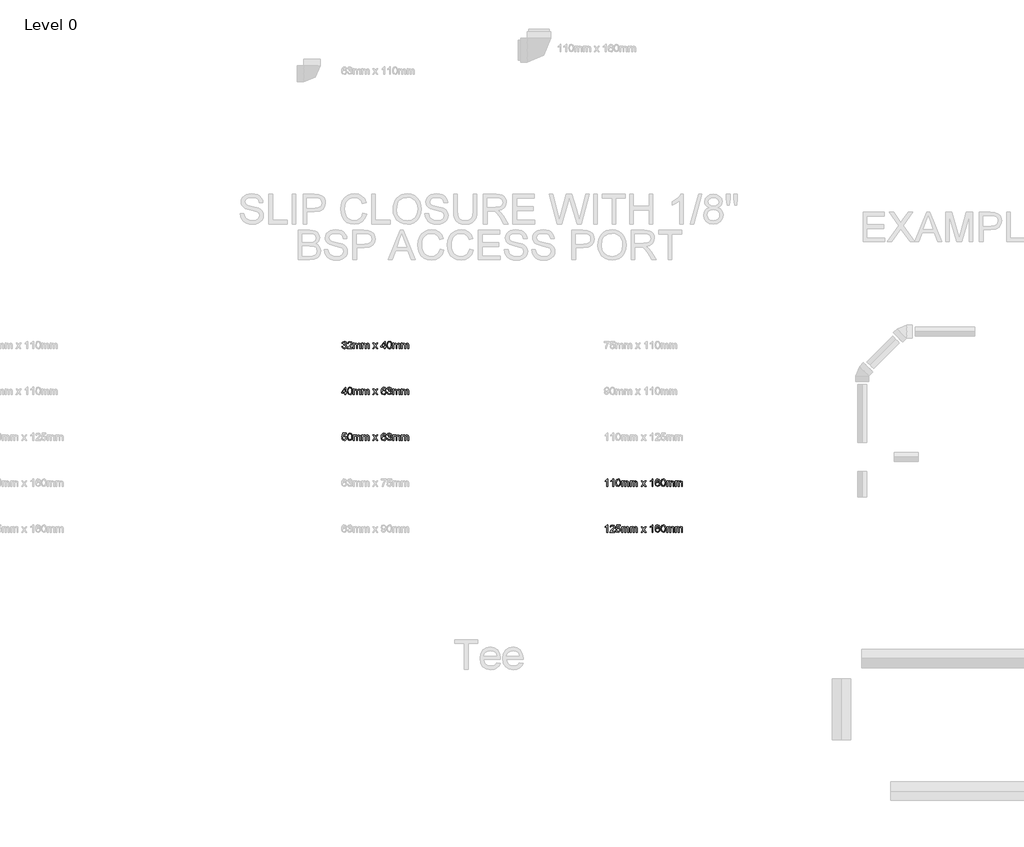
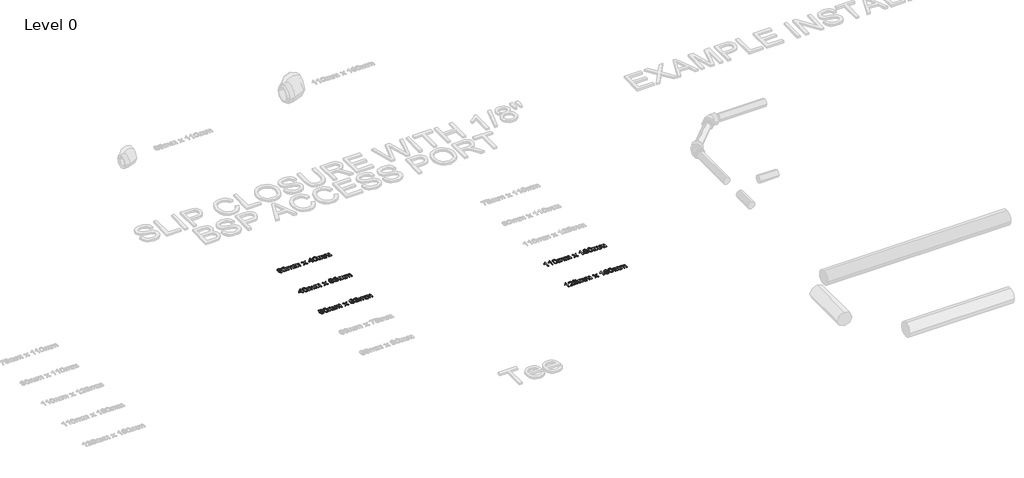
# One storey, part 13 of 21: 5 proxies.
"""IFC4 building model written with IfcOpenShell, lengths in millimetres."""

from ifc_helpers import new_model, si_unit, origin, origin_with_axes, place, context, project, spatial, polyline, outline, extrude, element, save

model = new_model("IFC4")

# Units and contexts
model_context = context("Model", 3, world=origin())
ifc_project = project(units=[si_unit("LENGTHUNIT", "METRE", prefix="MILLI")], contexts=[model_context])

# Site, building, storey
site = spatial("IfcSite", under=ifc_project)
building = spatial("IfcBuilding", under=site)
storey = spatial("IfcBuildingStorey", under=building, Name="Level 0", Elevation=0.0)

# Proxies
placement = place(None, origin())
element("IfcBuildingElementProxy", 1, Name="50mm", ObjectType="50mm", at=placement, inside=storey, context=model_context, shape_type="SweptSolid", body=[
    extrude(outline(polyline([(-3238.2285688, -5164.8694094), (-3231.9500494, -5164.0845945), (-3228.4858273, -5170.6942077), (-3222.0049728, -5172.7175586), (-3214.3775528, -5169.9339182), (-3211.5448614, -5163.0422622), (-3214.3530273, -5156.5491449), (-3221.4899381, -5153.9801023), (-3225.8922593, -5154.6668154), (-3225.1932835, -5148.388296), (-3217.0630914, -5146.6592506), (-3213.8993062, -5141.1164952), (-3216.1924373, -5136.2052706), (-3222.1030747, -5134.2616274), (-3228.0872885, -5136.2236647), (-3231.1652345, -5142.1097766), (-3237.4437539, -5141.3249617), (-3232.3056687, -5131.477987), (-3222.3238039, -5127.983108), (-3214.7515662, -5129.706022), (-3209.4540654, -5134.4149116), (-3207.6207868, -5140.7486132), (-3209.3620949, -5146.5366233), (-3214.5124429, -5150.6936899), (-3207.6698378, -5154.9856465), (-3205.2663421, -5163.1526268), (-3210.0733335, -5174.3852903), (-3222.225702, -5178.996078), (-3233.2376364, -5175.0597407), (-3238.2285688, -5164.8694094)])), origin_with_axes(), (0.0, 0.0, 1.0), 5.0),
    extrude(outline(polyline([(-3167.5952258, -5171.9327437), (-3167.5952258, -5178.2112631), (-3200.5574525, -5178.2112631), (-3199.8830022, -5173.8825183), (-3196.0692922, -5167.2177228), (-3188.2088802, -5159.9397907), (-3177.3686241, -5149.4796793), (-3174.6585601, -5142.367294), (-3177.2153399, -5136.6099408), (-3183.8923981, -5134.2616274), (-3190.8514992, -5136.5547585), (-3193.4941182, -5142.8945916), (-3199.7726376, -5142.1097766), (-3194.9595148, -5131.6006143), (-3183.7575081, -5127.983108), (-3172.5187131, -5132.0052845), (-3168.3800407, -5141.9871493), (-3169.4959494, -5147.9407063), (-3173.2054262, -5154.0965983), (-3182.200141, -5162.6989056), (-3189.4228908, -5168.7383017), (-3192.2555822, -5171.9327437), (-3167.5952258, -5171.9327437)])), origin_with_axes(), (0.0, 0.0, 1.0), 5.0),
    extrude(outline(polyline([(-3159.7470765, -5178.2112631), (-3159.7470765, -5141.3249617), (-3153.4685571, -5141.3249617), (-3153.4685571, -5147.3950146), (-3149.1520751, -5142.4224763), (-3143.0084457, -5140.5401468), (-3136.7176636, -5142.4592645), (-3133.2595729, -5147.836473), (-3128.360611, -5142.3642283), (-3122.1740621, -5140.5401468), (-3113.9641622, -5143.5751732), (-3111.0885513, -5152.9255073), (-3111.0885513, -5178.2112631), (-3117.3670707, -5178.2112631), (-3117.3670707, -5155.6233086), (-3117.9495505, -5150.3809902), (-3120.0587406, -5147.7996848), (-3123.6455901, -5146.8186662), (-3129.8198762, -5149.3325265), (-3132.2785542, -5157.3891422), (-3132.2785542, -5178.2112631), (-3138.5570736, -5178.2112631), (-3138.5570736, -5154.9243328), (-3140.0102075, -5148.8420171), (-3144.7742793, -5146.8186662), (-3149.4218552, -5148.1675668), (-3152.512064, -5152.1161669), (-3153.4685571, -5159.6086969), (-3153.4685571, -5178.2112631), (-3159.7470765, -5178.2112631)])), origin_with_axes(), (0.0, 0.0, 1.0), 5.0),
    extrude(outline(polyline([(-3101.6707722, -5178.2112631), (-3101.6707722, -5141.3249617), (-3095.3922528, -5141.3249617), (-3095.3922528, -5147.3950146), (-3091.0757708, -5142.4224763), (-3084.9321414, -5140.5401468), (-3078.6413593, -5142.4592645), (-3075.1832686, -5147.836473), (-3070.2843067, -5142.3642283), (-3064.0977578, -5140.5401468), (-3055.8878579, -5143.5751732), (-3053.012247, -5152.9255073), (-3053.012247, -5178.2112631), (-3059.2907664, -5178.2112631), (-3059.2907664, -5155.6233086), (-3059.8732462, -5150.3809902), (-3061.9824363, -5147.7996848), (-3065.5692858, -5146.8186662), (-3071.7435719, -5149.3325265), (-3074.2022499, -5157.3891422), (-3074.2022499, -5178.2112631), (-3080.4807693, -5178.2112631), (-3080.4807693, -5154.9243328), (-3081.9339032, -5148.8420171), (-3086.697975, -5146.8186662), (-3091.3455509, -5148.1675668), (-3094.4357597, -5152.1161669), (-3095.3922528, -5159.6086969), (-3095.3922528, -5178.2112631), (-3101.6707722, -5178.2112631)])), origin_with_axes(), (0.0, 0.0, 1.0), 5.0),
    extrude(outline(polyline([(-3027.8981695, -5178.2112631), (-3014.4827394, -5159.6700105), (-3027.1133545, -5141.3249617), (-3019.5595109, -5141.3249617), (-3013.4649325, -5150.1541296), (-3010.6199784, -5154.3234589), (-3008.155169, -5150.914419), (-3001.2144621, -5141.3249617), (-2993.6606184, -5141.3249617), (-3006.9288957, -5159.6700105), (-2994.1511278, -5178.2112631), (-3001.7049714, -5178.2112631), (-3009.3937051, -5167.0644386), (-3010.8039194, -5165.0288249), (-3020.3443258, -5178.2112631), (-3027.8981695, -5178.2112631)])), origin_with_axes(), (0.0, 0.0, 1.0), 5.0),
    extrude(outline(polyline([(-2950.2014921, -5178.2112631), (-2950.2014921, -5166.4390392), (-2972.9611248, -5166.4390392), (-2972.9611248, -5160.1605199), (-2948.6318622, -5128.7679229), (-2943.9229727, -5128.7679229), (-2943.9229727, -5160.1605199), (-2937.6444533, -5160.1605199), (-2937.6444533, -5166.4390392), (-2943.9229727, -5166.4390392), (-2943.9229727, -5178.2112631), (-2950.2014921, -5178.2112631)]), holes=[polyline([(-2950.2014921, -5160.1605199), (-2950.2014921, -5140.760876), (-2965.2356029, -5160.1605199), (-2950.2014921, -5160.1605199)])]), origin_with_axes(), (0.0, 0.0, 1.0), 5.0),
    extrude(outline(polyline([(-2932.1507488, -5153.5018557), (-2930.3052075, -5139.0502247), (-2924.8237658, -5130.7176975), (-2915.6696355, -5127.983108), (-2908.336521, -5129.6017888), (-2903.2720122, -5134.2677588), (-2900.3289563, -5141.6989751), (-2899.1885221, -5153.5018557), (-2901.0156693, -5167.8921731), (-2906.4787169, -5176.2430944), (-2915.6696355, -5178.996078), (-2927.1475537, -5174.2136121), (-2930.8999501, -5165.7186037), (-2932.1507488, -5153.5018557)]), holes=[polyline([(-2925.8722295, -5153.489593), (-2922.9291735, -5169.0816582), (-2915.6696355, -5172.7175586), (-2908.4100974, -5169.0693955), (-2905.4670415, -5153.489593), (-2908.3119956, -5138.0753374), (-2915.7432119, -5134.2616274), (-2922.8310716, -5137.6216163), (-2925.8722295, -5153.489593)])]), origin_with_axes(), (0.0, 0.0, 1.0), 5.0),
    extrude(outline(polyline([(-2892.1251878, -5178.2112631), (-2892.1251878, -5141.3249617), (-2885.8466684, -5141.3249617), (-2885.8466684, -5147.3950146), (-2881.5301863, -5142.4224763), (-2875.386557, -5140.5401468), (-2869.0957749, -5142.4592645), (-2865.6376841, -5147.836473), (-2860.7387222, -5142.3642283), (-2854.5521733, -5140.5401468), (-2846.3422735, -5143.5751732), (-2843.4666625, -5152.9255073), (-2843.4666625, -5178.2112631), (-2849.7451819, -5178.2112631), (-2849.7451819, -5155.6233086), (-2850.3276618, -5150.3809902), (-2852.4368519, -5147.7996848), (-2856.0237013, -5146.8186662), (-2862.1979875, -5149.3325265), (-2864.6566655, -5157.3891422), (-2864.6566655, -5178.2112631), (-2870.9351848, -5178.2112631), (-2870.9351848, -5154.9243328), (-2872.3883187, -5148.8420171), (-2877.1523906, -5146.8186662), (-2881.7999664, -5148.1675668), (-2884.8901752, -5152.1161669), (-2885.8466684, -5159.6086969), (-2885.8466684, -5178.2112631), (-2892.1251878, -5178.2112631)])), origin_with_axes(), (0.0, 0.0, 1.0), 5.0),
    extrude(outline(polyline([(-2834.0488835, -5178.2112631), (-2834.0488835, -5141.3249617), (-2827.7703641, -5141.3249617), (-2827.7703641, -5147.3950146), (-2823.453882, -5142.4224763), (-2817.3102527, -5140.5401468), (-2811.0194706, -5142.4592645), (-2807.5613798, -5147.836473), (-2802.6624179, -5142.3642283), (-2796.475869, -5140.5401468), (-2788.2659692, -5143.5751732), (-2785.3903582, -5152.9255073), (-2785.3903582, -5178.2112631), (-2791.6688776, -5178.2112631), (-2791.6688776, -5155.6233086), (-2792.2513574, -5150.3809902), (-2794.3605476, -5147.7996848), (-2797.947397, -5146.8186662), (-2804.1216832, -5149.3325265), (-2806.5803612, -5157.3891422), (-2806.5803612, -5178.2112631), (-2812.8588805, -5178.2112631), (-2812.8588805, -5154.9243328), (-2814.3120144, -5148.8420171), (-2819.0760863, -5146.8186662), (-2823.7236621, -5148.1675668), (-2826.8138709, -5152.1161669), (-2827.7703641, -5159.6086969), (-2827.7703641, -5178.2112631), (-2834.0488835, -5178.2112631)])), origin_with_axes(), (0.0, 0.0, 1.0), 5.0),
])
element("IfcBuildingElementProxy", 2, Name="50mm", ObjectType="50mm", at=placement, inside=storey, context=model_context, shape_type="SweptSolid", body=[
    extrude(outline(polyline([(-3217.8233808, -5489.4612631), (-3217.8233808, -5477.6890392), (-3240.5830136, -5477.6890392), (-3240.5830136, -5471.4105199), (-3216.253751, -5440.0179229), (-3211.5448614, -5440.0179229), (-3211.5448614, -5471.4105199), (-3205.2663421, -5471.4105199), (-3205.2663421, -5477.6890392), (-3211.5448614, -5477.6890392), (-3211.5448614, -5489.4612631), (-3217.8233808, -5489.4612631)]), holes=[polyline([(-3217.8233808, -5471.4105199), (-3217.8233808, -5452.010876), (-3232.8574917, -5471.4105199), (-3217.8233808, -5471.4105199)])]), origin_with_axes(), (0.0, 0.0, 1.0), 5.0),
    extrude(outline(polyline([(-3199.7726376, -5464.7518557), (-3197.9270963, -5450.3002247), (-3192.4456545, -5441.9676975), (-3183.2915242, -5439.233108), (-3175.9584098, -5440.8517888), (-3170.893901, -5445.5177588), (-3167.950845, -5452.9489751), (-3166.8104108, -5464.7518557), (-3168.6375581, -5479.1421731), (-3174.1006057, -5487.4930944), (-3183.2915242, -5490.246078), (-3194.7694425, -5485.4636121), (-3198.5218388, -5476.9686037), (-3199.7726376, -5464.7518557)]), holes=[polyline([(-3193.4941182, -5464.739593), (-3190.5510623, -5480.3316582), (-3183.2915242, -5483.9675586), (-3176.0319862, -5480.3193955), (-3173.0889302, -5464.739593), (-3175.9338843, -5449.3253374), (-3183.3651006, -5445.5116274), (-3190.4529604, -5448.8716163), (-3193.4941182, -5464.739593)])]), origin_with_axes(), (0.0, 0.0, 1.0), 5.0),
    extrude(outline(polyline([(-3159.7470765, -5489.4612631), (-3159.7470765, -5452.5749617), (-3153.4685571, -5452.5749617), (-3153.4685571, -5458.6450146), (-3149.1520751, -5453.6724763), (-3143.0084457, -5451.7901468), (-3136.7176636, -5453.7092645), (-3133.2595729, -5459.086473), (-3128.360611, -5453.6142283), (-3122.1740621, -5451.7901468), (-3113.9641622, -5454.8251732), (-3111.0885513, -5464.1755073), (-3111.0885513, -5489.4612631), (-3117.3670707, -5489.4612631), (-3117.3670707, -5466.8733086), (-3117.9495505, -5461.6309902), (-3120.0587406, -5459.0496848), (-3123.6455901, -5458.0686662), (-3129.8198762, -5460.5825265), (-3132.2785542, -5468.6391422), (-3132.2785542, -5489.4612631), (-3138.5570736, -5489.4612631), (-3138.5570736, -5466.1743328), (-3140.0102075, -5460.0920171), (-3144.7742793, -5458.0686662), (-3149.4218552, -5459.4175668), (-3152.512064, -5463.3661669), (-3153.4685571, -5470.8586969), (-3153.4685571, -5489.4612631), (-3159.7470765, -5489.4612631)])), origin_with_axes(), (0.0, 0.0, 1.0), 5.0),
    extrude(outline(polyline([(-3101.6707722, -5489.4612631), (-3101.6707722, -5452.5749617), (-3095.3922528, -5452.5749617), (-3095.3922528, -5458.6450146), (-3091.0757708, -5453.6724763), (-3084.9321414, -5451.7901468), (-3078.6413593, -5453.7092645), (-3075.1832686, -5459.086473), (-3070.2843067, -5453.6142283), (-3064.0977578, -5451.7901468), (-3055.8878579, -5454.8251732), (-3053.012247, -5464.1755073), (-3053.012247, -5489.4612631), (-3059.2907664, -5489.4612631), (-3059.2907664, -5466.8733086), (-3059.8732462, -5461.6309902), (-3061.9824363, -5459.0496848), (-3065.5692858, -5458.0686662), (-3071.7435719, -5460.5825265), (-3074.2022499, -5468.6391422), (-3074.2022499, -5489.4612631), (-3080.4807693, -5489.4612631), (-3080.4807693, -5466.1743328), (-3081.9339032, -5460.0920171), (-3086.697975, -5458.0686662), (-3091.3455509, -5459.4175668), (-3094.4357597, -5463.3661669), (-3095.3922528, -5470.8586969), (-3095.3922528, -5489.4612631), (-3101.6707722, -5489.4612631)])), origin_with_axes(), (0.0, 0.0, 1.0), 5.0),
    extrude(outline(polyline([(-3027.8981695, -5489.4612631), (-3014.4827394, -5470.9200105), (-3027.1133545, -5452.5749617), (-3019.5595109, -5452.5749617), (-3013.4649325, -5461.4041296), (-3010.6199784, -5465.5734589), (-3008.155169, -5462.164419), (-3001.2144621, -5452.5749617), (-2993.6606184, -5452.5749617), (-3006.9288957, -5470.9200105), (-2994.1511278, -5489.4612631), (-3001.7049714, -5489.4612631), (-3009.3937051, -5478.3144386), (-3010.8039194, -5476.2788249), (-3020.3443258, -5489.4612631), (-3027.8981695, -5489.4612631)])), origin_with_axes(), (0.0, 0.0, 1.0), 5.0),
    extrude(outline(polyline([(-2938.4292682, -5452.5749617), (-2944.7077876, -5453.3597766), (-2947.0867578, -5448.1235896), (-2953.37754, -5445.5116274), (-2959.0429227, -5447.0322063), (-2963.3287479, -5452.7405086), (-2965.1129756, -5463.9302526), (-2959.5763516, -5458.9209261), (-2952.7153524, -5457.2838512), (-2942.0467745, -5461.7597489), (-2937.6444533, -5473.3235062), (-2939.7168552, -5481.9871272), (-2945.4190261, -5488.1184938), (-2953.6473201, -5490.246078), (-2966.4434822, -5484.6052208), (-2970.1544918, -5477.1372163), (-2971.391495, -5466.0149173), (-2970.0180689, -5453.5099951), (-2965.8977905, -5444.9598044), (-2960.2722617, -5440.6647821), (-2952.9851325, -5439.233108), (-2943.0645814, -5442.7770379), (-2938.4292682, -5452.5749617)]), holes=[polyline([(-2965.1129756, -5473.2254044), (-2963.6598417, -5478.6639265), (-2959.7970808, -5482.6125266), (-2954.1378294, -5483.9675586), (-2946.73727, -5481.1593927), (-2943.9229727, -5473.5319727), (-2946.7004818, -5466.2295151), (-2954.3953468, -5463.5623706), (-2961.99211, -5466.2295151), (-2965.1129756, -5473.2254044)])]), origin_with_axes(), (0.0, 0.0, 1.0), 5.0),
    extrude(outline(polyline([(-2932.1507488, -5476.1194094), (-2925.8722295, -5475.3345945), (-2922.4080073, -5481.9442077), (-2915.9271529, -5483.9675586), (-2908.2997328, -5481.1839182), (-2905.4670415, -5474.2922622), (-2908.2752074, -5467.7991449), (-2915.4121181, -5465.2301023), (-2919.8144393, -5465.9168154), (-2919.1154635, -5459.638296), (-2910.9852714, -5457.9092506), (-2907.8214862, -5452.3664952), (-2910.1146173, -5447.4552706), (-2916.0252547, -5445.5116274), (-2922.0094685, -5447.4736647), (-2925.0874145, -5453.3597766), (-2931.3659339, -5452.5749617), (-2926.2278487, -5442.727987), (-2916.2459839, -5439.233108), (-2908.6737462, -5440.956022), (-2903.3762455, -5445.6649116), (-2901.5429668, -5451.9986132), (-2903.284275, -5457.7866233), (-2908.4346229, -5461.9436899), (-2901.5920178, -5466.2356465), (-2899.1885221, -5474.4026268), (-2903.9955135, -5485.6352903), (-2916.1478821, -5490.246078), (-2927.1598164, -5486.3097407), (-2932.1507488, -5476.1194094)])), origin_with_axes(), (0.0, 0.0, 1.0), 5.0),
    extrude(outline(polyline([(-2892.1251878, -5489.4612631), (-2892.1251878, -5452.5749617), (-2885.8466684, -5452.5749617), (-2885.8466684, -5458.6450146), (-2881.5301863, -5453.6724763), (-2875.386557, -5451.7901468), (-2869.0957749, -5453.7092645), (-2865.6376841, -5459.086473), (-2860.7387222, -5453.6142283), (-2854.5521733, -5451.7901468), (-2846.3422735, -5454.8251732), (-2843.4666625, -5464.1755073), (-2843.4666625, -5489.4612631), (-2849.7451819, -5489.4612631), (-2849.7451819, -5466.8733086), (-2850.3276618, -5461.6309902), (-2852.4368519, -5459.0496848), (-2856.0237013, -5458.0686662), (-2862.1979875, -5460.5825265), (-2864.6566655, -5468.6391422), (-2864.6566655, -5489.4612631), (-2870.9351848, -5489.4612631), (-2870.9351848, -5466.1743328), (-2872.3883187, -5460.0920171), (-2877.1523906, -5458.0686662), (-2881.7999664, -5459.4175668), (-2884.8901752, -5463.3661669), (-2885.8466684, -5470.8586969), (-2885.8466684, -5489.4612631), (-2892.1251878, -5489.4612631)])), origin_with_axes(), (0.0, 0.0, 1.0), 5.0),
    extrude(outline(polyline([(-2834.0488835, -5489.4612631), (-2834.0488835, -5452.5749617), (-2827.7703641, -5452.5749617), (-2827.7703641, -5458.6450146), (-2823.453882, -5453.6724763), (-2817.3102527, -5451.7901468), (-2811.0194706, -5453.7092645), (-2807.5613798, -5459.086473), (-2802.6624179, -5453.6142283), (-2796.475869, -5451.7901468), (-2788.2659692, -5454.8251732), (-2785.3903582, -5464.1755073), (-2785.3903582, -5489.4612631), (-2791.6688776, -5489.4612631), (-2791.6688776, -5466.8733086), (-2792.2513574, -5461.6309902), (-2794.3605476, -5459.0496848), (-2797.947397, -5458.0686662), (-2804.1216832, -5460.5825265), (-2806.5803612, -5468.6391422), (-2806.5803612, -5489.4612631), (-2812.8588805, -5489.4612631), (-2812.8588805, -5466.1743328), (-2814.3120144, -5460.0920171), (-2819.0760863, -5458.0686662), (-2823.7236621, -5459.4175668), (-2826.8138709, -5463.3661669), (-2827.7703641, -5470.8586969), (-2827.7703641, -5489.4612631), (-2834.0488835, -5489.4612631)])), origin_with_axes(), (0.0, 0.0, 1.0), 5.0),
])
element("IfcBuildingElementProxy", 3, Name="50mm", ObjectType="50mm", at=placement, inside=storey, context=model_context, shape_type="SweptSolid", body=[
    extrude(outline(polyline([(-3238.2285688, -5787.3694094), (-3231.9500494, -5786.5845945), (-3228.7862643, -5793.0531862), (-3222.225702, -5795.2175586), (-3214.3530273, -5792.2070576), (-3211.5448614, -5784.217887), (-3214.1752177, -5776.7621452), (-3222.1276002, -5774.0275557), (-3227.6396987, -5775.118939), (-3231.1652345, -5777.9516303), (-3237.4437539, -5777.1668154), (-3231.9500494, -5751.2679229), (-3207.6207868, -5751.2679229), (-3207.6207868, -5757.5464423), (-3226.8732779, -5757.5464423), (-3229.5588165, -5771.3788053), (-3220.3740293, -5767.7490363), (-3209.6380064, -5772.2494594), (-3205.2663421, -5783.8254795), (-3209.2026794, -5795.475076), (-3214.8557994, -5799.9908275), (-3222.2502275, -5801.496078), (-3233.3296069, -5797.6271857), (-3238.2285688, -5787.3694094)])), origin_with_axes(), (0.0, 0.0, 1.0), 5.0),
    extrude(outline(polyline([(-3199.7726376, -5776.0018557), (-3197.9270963, -5761.5502247), (-3192.4456545, -5753.2176975), (-3183.2915242, -5750.483108), (-3175.9584098, -5752.1017888), (-3170.893901, -5756.7677588), (-3167.950845, -5764.1989751), (-3166.8104108, -5776.0018557), (-3168.6375581, -5790.3921731), (-3174.1006057, -5798.7430944), (-3183.2915242, -5801.496078), (-3194.7694425, -5796.7136121), (-3198.5218388, -5788.2186037), (-3199.7726376, -5776.0018557)]), holes=[polyline([(-3193.4941182, -5775.989593), (-3190.5510623, -5791.5816582), (-3183.2915242, -5795.2175586), (-3176.0319862, -5791.5693955), (-3173.0889302, -5775.989593), (-3175.9338843, -5760.5753374), (-3183.3651006, -5756.7616274), (-3190.4529604, -5760.1216163), (-3193.4941182, -5775.989593)])]), origin_with_axes(), (0.0, 0.0, 1.0), 5.0),
    extrude(outline(polyline([(-3159.7470765, -5800.7112631), (-3159.7470765, -5763.8249617), (-3153.4685571, -5763.8249617), (-3153.4685571, -5769.8950146), (-3149.1520751, -5764.9224763), (-3143.0084457, -5763.0401468), (-3136.7176636, -5764.9592645), (-3133.2595729, -5770.336473), (-3128.360611, -5764.8642283), (-3122.1740621, -5763.0401468), (-3113.9641622, -5766.0751732), (-3111.0885513, -5775.4255073), (-3111.0885513, -5800.7112631), (-3117.3670707, -5800.7112631), (-3117.3670707, -5778.1233086), (-3117.9495505, -5772.8809902), (-3120.0587406, -5770.2996848), (-3123.6455901, -5769.3186662), (-3129.8198762, -5771.8325265), (-3132.2785542, -5779.8891422), (-3132.2785542, -5800.7112631), (-3138.5570736, -5800.7112631), (-3138.5570736, -5777.4243328), (-3140.0102075, -5771.3420171), (-3144.7742793, -5769.3186662), (-3149.4218552, -5770.6675668), (-3152.512064, -5774.6161669), (-3153.4685571, -5782.1086969), (-3153.4685571, -5800.7112631), (-3159.7470765, -5800.7112631)])), origin_with_axes(), (0.0, 0.0, 1.0), 5.0),
    extrude(outline(polyline([(-3101.6707722, -5800.7112631), (-3101.6707722, -5763.8249617), (-3095.3922528, -5763.8249617), (-3095.3922528, -5769.8950146), (-3091.0757708, -5764.9224763), (-3084.9321414, -5763.0401468), (-3078.6413593, -5764.9592645), (-3075.1832686, -5770.336473), (-3070.2843067, -5764.8642283), (-3064.0977578, -5763.0401468), (-3055.8878579, -5766.0751732), (-3053.012247, -5775.4255073), (-3053.012247, -5800.7112631), (-3059.2907664, -5800.7112631), (-3059.2907664, -5778.1233086), (-3059.8732462, -5772.8809902), (-3061.9824363, -5770.2996848), (-3065.5692858, -5769.3186662), (-3071.7435719, -5771.8325265), (-3074.2022499, -5779.8891422), (-3074.2022499, -5800.7112631), (-3080.4807693, -5800.7112631), (-3080.4807693, -5777.4243328), (-3081.9339032, -5771.3420171), (-3086.697975, -5769.3186662), (-3091.3455509, -5770.6675668), (-3094.4357597, -5774.6161669), (-3095.3922528, -5782.1086969), (-3095.3922528, -5800.7112631), (-3101.6707722, -5800.7112631)])), origin_with_axes(), (0.0, 0.0, 1.0), 5.0),
    extrude(outline(polyline([(-3027.8981695, -5800.7112631), (-3014.4827394, -5782.1700105), (-3027.1133545, -5763.8249617), (-3019.5595109, -5763.8249617), (-3013.4649325, -5772.6541296), (-3010.6199784, -5776.8234589), (-3008.155169, -5773.414419), (-3001.2144621, -5763.8249617), (-2993.6606184, -5763.8249617), (-3006.9288957, -5782.1700105), (-2994.1511278, -5800.7112631), (-3001.7049714, -5800.7112631), (-3009.3937051, -5789.5644386), (-3010.8039194, -5787.5288249), (-3020.3443258, -5800.7112631), (-3027.8981695, -5800.7112631)])), origin_with_axes(), (0.0, 0.0, 1.0), 5.0),
    extrude(outline(polyline([(-2938.4292682, -5763.8249617), (-2944.7077876, -5764.6097766), (-2947.0867578, -5759.3735896), (-2953.37754, -5756.7616274), (-2959.0429227, -5758.2822063), (-2963.3287479, -5763.9905086), (-2965.1129756, -5775.1802526), (-2959.5763516, -5770.1709261), (-2952.7153524, -5768.5338512), (-2942.0467745, -5773.0097489), (-2937.6444533, -5784.5735062), (-2939.7168552, -5793.2371272), (-2945.4190261, -5799.3684938), (-2953.6473201, -5801.496078), (-2966.4434822, -5795.8552208), (-2970.1544918, -5788.3872163), (-2971.391495, -5777.2649173), (-2970.0180689, -5764.7599951), (-2965.8977905, -5756.2098044), (-2960.2722617, -5751.9147821), (-2952.9851325, -5750.483108), (-2943.0645814, -5754.0270379), (-2938.4292682, -5763.8249617)]), holes=[polyline([(-2965.1129756, -5784.4754044), (-2963.6598417, -5789.9139265), (-2959.7970808, -5793.8625266), (-2954.1378294, -5795.2175586), (-2946.73727, -5792.4093927), (-2943.9229727, -5784.7819727), (-2946.7004818, -5777.4795151), (-2954.3953468, -5774.8123706), (-2961.99211, -5777.4795151), (-2965.1129756, -5784.4754044)])]), origin_with_axes(), (0.0, 0.0, 1.0), 5.0),
    extrude(outline(polyline([(-2932.1507488, -5787.3694094), (-2925.8722295, -5786.5845945), (-2922.4080073, -5793.1942077), (-2915.9271529, -5795.2175586), (-2908.2997328, -5792.4339182), (-2905.4670415, -5785.5422622), (-2908.2752074, -5779.0491449), (-2915.4121181, -5776.4801023), (-2919.8144393, -5777.1668154), (-2919.1154635, -5770.888296), (-2910.9852714, -5769.1592506), (-2907.8214862, -5763.6164952), (-2910.1146173, -5758.7052706), (-2916.0252547, -5756.7616274), (-2922.0094685, -5758.7236647), (-2925.0874145, -5764.6097766), (-2931.3659339, -5763.8249617), (-2926.2278487, -5753.977987), (-2916.2459839, -5750.483108), (-2908.6737462, -5752.206022), (-2903.3762455, -5756.9149116), (-2901.5429668, -5763.2486132), (-2903.284275, -5769.0366233), (-2908.4346229, -5773.1936899), (-2901.5920178, -5777.4856465), (-2899.1885221, -5785.6526268), (-2903.9955135, -5796.8852903), (-2916.1478821, -5801.496078), (-2927.1598164, -5797.5597407), (-2932.1507488, -5787.3694094)])), origin_with_axes(), (0.0, 0.0, 1.0), 5.0),
    extrude(outline(polyline([(-2892.1251878, -5800.7112631), (-2892.1251878, -5763.8249617), (-2885.8466684, -5763.8249617), (-2885.8466684, -5769.8950146), (-2881.5301863, -5764.9224763), (-2875.386557, -5763.0401468), (-2869.0957749, -5764.9592645), (-2865.6376841, -5770.336473), (-2860.7387222, -5764.8642283), (-2854.5521733, -5763.0401468), (-2846.3422735, -5766.0751732), (-2843.4666625, -5775.4255073), (-2843.4666625, -5800.7112631), (-2849.7451819, -5800.7112631), (-2849.7451819, -5778.1233086), (-2850.3276618, -5772.8809902), (-2852.4368519, -5770.2996848), (-2856.0237013, -5769.3186662), (-2862.1979875, -5771.8325265), (-2864.6566655, -5779.8891422), (-2864.6566655, -5800.7112631), (-2870.9351848, -5800.7112631), (-2870.9351848, -5777.4243328), (-2872.3883187, -5771.3420171), (-2877.1523906, -5769.3186662), (-2881.7999664, -5770.6675668), (-2884.8901752, -5774.6161669), (-2885.8466684, -5782.1086969), (-2885.8466684, -5800.7112631), (-2892.1251878, -5800.7112631)])), origin_with_axes(), (0.0, 0.0, 1.0), 5.0),
    extrude(outline(polyline([(-2834.0488835, -5800.7112631), (-2834.0488835, -5763.8249617), (-2827.7703641, -5763.8249617), (-2827.7703641, -5769.8950146), (-2823.453882, -5764.9224763), (-2817.3102527, -5763.0401468), (-2811.0194706, -5764.9592645), (-2807.5613798, -5770.336473), (-2802.6624179, -5764.8642283), (-2796.475869, -5763.0401468), (-2788.2659692, -5766.0751732), (-2785.3903582, -5775.4255073), (-2785.3903582, -5800.7112631), (-2791.6688776, -5800.7112631), (-2791.6688776, -5778.1233086), (-2792.2513574, -5772.8809902), (-2794.3605476, -5770.2996848), (-2797.947397, -5769.3186662), (-2804.1216832, -5771.8325265), (-2806.5803612, -5779.8891422), (-2806.5803612, -5800.7112631), (-2812.8588805, -5800.7112631), (-2812.8588805, -5777.4243328), (-2814.3120144, -5771.3420171), (-2819.0760863, -5769.3186662), (-2823.7236621, -5770.6675668), (-2826.8138709, -5774.6161669), (-2827.7703641, -5782.1086969), (-2827.7703641, -5800.7112631), (-2834.0488835, -5800.7112631)])), origin_with_axes(), (0.0, 0.0, 1.0), 5.0),
])
element("IfcBuildingElementProxy", 4, Name="50mm", ObjectType="50mm", at=placement, inside=storey, context=model_context, shape_type="SweptSolid", body=[
    extrude(outline(polyline([(-1434.6841211, -6111.9612631), (-1440.9626405, -6111.9612631), (-1440.9626405, -6072.8186188), (-1446.9100661, -6077.0553931), (-1453.5196793, -6080.2253096), (-1453.5196793, -6074.2901468), (-1444.316498, -6068.4162976), (-1438.7308231, -6061.733108), (-1434.6841211, -6061.733108), (-1434.6841211, -6111.9612631)])), origin_with_axes(), (0.0, 0.0, 1.0), 5.0),
    extrude(outline(polyline([(-1396.2281899, -6111.9612631), (-1402.5067093, -6111.9612631), (-1402.5067093, -6072.8186188), (-1408.4541349, -6077.0553931), (-1415.0637481, -6080.2253096), (-1415.0637481, -6074.2901468), (-1405.8605668, -6068.4162976), (-1400.2748919, -6061.733108), (-1396.2281899, -6061.733108), (-1396.2281899, -6111.9612631)])), origin_with_axes(), (0.0, 0.0, 1.0), 5.0),
    extrude(outline(polyline([(-1381.3167064, -6087.2518557), (-1379.471165, -6072.8002247), (-1373.9897233, -6064.4676975), (-1364.835593, -6061.733108), (-1357.5024786, -6063.3517888), (-1352.4379698, -6068.0177588), (-1349.4949138, -6075.4489751), (-1348.3544796, -6087.2518557), (-1350.1816268, -6101.6421731), (-1355.6446745, -6109.9930944), (-1364.835593, -6112.746078), (-1376.3135112, -6107.9636121), (-1380.0659076, -6099.4686037), (-1381.3167064, -6087.2518557)]), holes=[polyline([(-1375.038187, -6087.239593), (-1372.095131, -6102.8316582), (-1364.835593, -6106.4675586), (-1357.576055, -6102.8193955), (-1354.632999, -6087.239593), (-1357.4779531, -6071.8253374), (-1364.9091694, -6068.0116274), (-1371.9970292, -6071.3716163), (-1375.038187, -6087.239593)])]), origin_with_axes(), (0.0, 0.0, 1.0), 5.0),
    extrude(outline(polyline([(-1341.2911453, -6111.9612631), (-1341.2911453, -6075.0749617), (-1335.0126259, -6075.0749617), (-1335.0126259, -6081.1450146), (-1330.6961438, -6076.1724763), (-1324.5525145, -6074.2901468), (-1318.2617324, -6076.2092645), (-1314.8036416, -6081.586473), (-1309.9046797, -6076.1142283), (-1303.7181309, -6074.2901468), (-1295.508231, -6077.3251732), (-1292.6326201, -6086.6755073), (-1292.6326201, -6111.9612631), (-1298.9111395, -6111.9612631), (-1298.9111395, -6089.3733086), (-1299.4936193, -6084.1309902), (-1301.6028094, -6081.5496848), (-1305.1896588, -6080.5686662), (-1311.363945, -6083.0825265), (-1313.822623, -6091.1391422), (-1313.822623, -6111.9612631), (-1320.1011424, -6111.9612631), (-1320.1011424, -6088.6743328), (-1321.5542763, -6082.5920171), (-1326.3183481, -6080.5686662), (-1330.965924, -6081.9175668), (-1334.0561327, -6085.8661669), (-1335.0126259, -6093.3586969), (-1335.0126259, -6111.9612631), (-1341.2911453, -6111.9612631)])), origin_with_axes(), (0.0, 0.0, 1.0), 5.0),
    extrude(outline(polyline([(-1283.214841, -6111.9612631), (-1283.214841, -6075.0749617), (-1276.9363216, -6075.0749617), (-1276.9363216, -6081.1450146), (-1272.6198395, -6076.1724763), (-1266.4762102, -6074.2901468), (-1260.1854281, -6076.2092645), (-1256.7273373, -6081.586473), (-1251.8283754, -6076.1142283), (-1245.6418266, -6074.2901468), (-1237.4319267, -6077.3251732), (-1234.5563158, -6086.6755073), (-1234.5563158, -6111.9612631), (-1240.8348351, -6111.9612631), (-1240.8348351, -6089.3733086), (-1241.417315, -6084.1309902), (-1243.5265051, -6081.5496848), (-1247.1133545, -6080.5686662), (-1253.2876407, -6083.0825265), (-1255.7463187, -6091.1391422), (-1255.7463187, -6111.9612631), (-1262.0248381, -6111.9612631), (-1262.0248381, -6088.6743328), (-1263.477972, -6082.5920171), (-1268.2420438, -6080.5686662), (-1272.8896197, -6081.9175668), (-1275.9798284, -6085.8661669), (-1276.9363216, -6093.3586969), (-1276.9363216, -6111.9612631), (-1283.214841, -6111.9612631)])), origin_with_axes(), (0.0, 0.0, 1.0), 5.0),
    extrude(outline(polyline([(-1209.4422382, -6111.9612631), (-1196.0268081, -6093.4200105), (-1208.6574233, -6075.0749617), (-1201.1035797, -6075.0749617), (-1195.0090013, -6083.9041296), (-1192.1640472, -6088.0734589), (-1189.6992378, -6084.664419), (-1182.7585308, -6075.0749617), (-1175.2046872, -6075.0749617), (-1188.4729645, -6093.4200105), (-1175.6951965, -6111.9612631), (-1183.2490402, -6111.9612631), (-1190.9377739, -6100.8144386), (-1192.3479882, -6098.7788249), (-1201.8883946, -6111.9612631), (-1209.4422382, -6111.9612631)])), origin_with_axes(), (0.0, 0.0, 1.0), 5.0),
    extrude(outline(polyline([(-1128.6063012, -6111.9612631), (-1134.8848205, -6111.9612631), (-1134.8848205, -6072.8186188), (-1140.8322461, -6077.0553931), (-1147.4418593, -6080.2253096), (-1147.4418593, -6074.2901468), (-1138.2386781, -6068.4162976), (-1132.6530031, -6061.733108), (-1128.6063012, -6061.733108), (-1128.6063012, -6111.9612631)])), origin_with_axes(), (0.0, 0.0, 1.0), 5.0),
    extrude(outline(polyline([(-1081.5174058, -6075.0749617), (-1087.7959252, -6075.8597766), (-1090.1748954, -6070.6235896), (-1096.4656775, -6068.0116274), (-1102.1310602, -6069.5322063), (-1106.4168855, -6075.2405086), (-1108.2011132, -6086.4302526), (-1102.6644891, -6081.4209261), (-1095.8034899, -6079.7838512), (-1085.1349121, -6084.2597489), (-1080.7325908, -6095.8235062), (-1082.8049928, -6104.4871272), (-1088.5071637, -6110.6184938), (-1096.7354576, -6112.746078), (-1109.5316197, -6107.1052208), (-1113.2426293, -6099.6372163), (-1114.4796325, -6088.5149173), (-1113.1062064, -6076.0099951), (-1108.9859281, -6067.4598044), (-1103.3603992, -6063.1647821), (-1096.07327, -6061.733108), (-1086.1527189, -6065.2770379), (-1081.5174058, -6075.0749617)]), holes=[polyline([(-1108.2011132, -6095.7254044), (-1106.7479793, -6101.1639265), (-1102.8852183, -6105.1125266), (-1097.225967, -6106.4675586), (-1089.8254075, -6103.6593927), (-1087.0111102, -6096.0319727), (-1089.7886193, -6088.7295151), (-1097.4834844, -6086.0623706), (-1105.0802476, -6088.7295151), (-1108.2011132, -6095.7254044)])]), origin_with_axes(), (0.0, 0.0, 1.0), 5.0),
    extrude(outline(polyline([(-1075.2388864, -6087.2518557), (-1073.393345, -6072.8002247), (-1067.9119033, -6064.4676975), (-1058.757773, -6061.733108), (-1051.4246586, -6063.3517888), (-1046.3601498, -6068.0177588), (-1043.4170938, -6075.4489751), (-1042.2766596, -6087.2518557), (-1044.1038069, -6101.6421731), (-1049.5668545, -6109.9930944), (-1058.757773, -6112.746078), (-1070.2356913, -6107.9636121), (-1073.9880876, -6099.4686037), (-1075.2388864, -6087.2518557)]), holes=[polyline([(-1068.960367, -6087.239593), (-1066.017311, -6102.8316582), (-1058.757773, -6106.4675586), (-1051.498235, -6102.8193955), (-1048.555179, -6087.239593), (-1051.4001331, -6071.8253374), (-1058.8313494, -6068.0116274), (-1065.9192092, -6071.3716163), (-1068.960367, -6087.239593)])]), origin_with_axes(), (0.0, 0.0, 1.0), 5.0),
    extrude(outline(polyline([(-1035.2133253, -6111.9612631), (-1035.2133253, -6075.0749617), (-1028.9348059, -6075.0749617), (-1028.9348059, -6081.1450146), (-1024.6183239, -6076.1724763), (-1018.4746945, -6074.2901468), (-1012.1839124, -6076.2092645), (-1008.7258217, -6081.586473), (-1003.8268598, -6076.1142283), (-997.6403109, -6074.2901468), (-989.430411, -6077.3251732), (-986.5548001, -6086.6755073), (-986.5548001, -6111.9612631), (-992.8333195, -6111.9612631), (-992.8333195, -6089.3733086), (-993.4157993, -6084.1309902), (-995.5249894, -6081.5496848), (-999.1118389, -6080.5686662), (-1005.286125, -6083.0825265), (-1007.744803, -6091.1391422), (-1007.744803, -6111.9612631), (-1014.0233224, -6111.9612631), (-1014.0233224, -6088.6743328), (-1015.4764563, -6082.5920171), (-1020.2405281, -6080.5686662), (-1024.888104, -6081.9175668), (-1027.9783127, -6085.8661669), (-1028.9348059, -6093.3586969), (-1028.9348059, -6111.9612631), (-1035.2133253, -6111.9612631)])), origin_with_axes(), (0.0, 0.0, 1.0), 5.0),
    extrude(outline(polyline([(-977.137021, -6111.9612631), (-977.137021, -6075.0749617), (-970.8585016, -6075.0749617), (-970.8585016, -6081.1450146), (-966.5420195, -6076.1724763), (-960.3983902, -6074.2901468), (-954.1076081, -6076.2092645), (-950.6495174, -6081.586473), (-945.7505555, -6076.1142283), (-939.5640066, -6074.2901468), (-931.3541067, -6077.3251732), (-928.4784958, -6086.6755073), (-928.4784958, -6111.9612631), (-934.7570152, -6111.9612631), (-934.7570152, -6089.3733086), (-935.339495, -6084.1309902), (-937.4486851, -6081.5496848), (-941.0355345, -6080.5686662), (-947.2098207, -6083.0825265), (-949.6684987, -6091.1391422), (-949.6684987, -6111.9612631), (-955.9470181, -6111.9612631), (-955.9470181, -6088.6743328), (-957.400152, -6082.5920171), (-962.1642238, -6080.5686662), (-966.8117997, -6081.9175668), (-969.9020084, -6085.8661669), (-970.8585016, -6093.3586969), (-970.8585016, -6111.9612631), (-977.137021, -6111.9612631)])), origin_with_axes(), (0.0, 0.0, 1.0), 5.0),
])
element("IfcBuildingElementProxy", 5, Name="50mm", ObjectType="50mm", at=placement, inside=storey, context=model_context, shape_type="SweptSolid", body=[
    extrude(outline(polyline([(-1434.6841211, -6423.2112631), (-1440.9626405, -6423.2112631), (-1440.9626405, -6384.0686188), (-1446.9100661, -6388.3053931), (-1453.5196793, -6391.4753096), (-1453.5196793, -6385.5401468), (-1444.316498, -6379.6662976), (-1438.7308231, -6372.983108), (-1434.6841211, -6372.983108), (-1434.6841211, -6423.2112631)])), origin_with_axes(), (0.0, 0.0, 1.0), 5.0),
    extrude(outline(polyline([(-1387.5952258, -6416.9327437), (-1387.5952258, -6423.2112631), (-1420.5574525, -6423.2112631), (-1419.8830022, -6418.8825183), (-1416.0692922, -6412.2177228), (-1408.2088802, -6404.9397907), (-1397.3686241, -6394.4796793), (-1394.6585601, -6387.367294), (-1397.2153399, -6381.6099408), (-1403.8923981, -6379.2616274), (-1410.8514992, -6381.5547585), (-1413.4941182, -6387.8945916), (-1419.7726376, -6387.1097766), (-1414.9595148, -6376.6006143), (-1403.7575081, -6372.983108), (-1392.5187131, -6377.0052845), (-1388.3800407, -6386.9871493), (-1389.4959494, -6392.9407063), (-1393.2054262, -6399.0965983), (-1402.200141, -6407.6989056), (-1409.4228908, -6413.7383017), (-1412.2555822, -6416.9327437), (-1387.5952258, -6416.9327437)])), origin_with_axes(), (0.0, 0.0, 1.0), 5.0),
    extrude(outline(polyline([(-1381.3167064, -6409.8694094), (-1375.038187, -6409.0845945), (-1371.8744018, -6415.5531862), (-1365.3138396, -6417.7175586), (-1357.4411649, -6414.7070576), (-1354.632999, -6406.717887), (-1357.2633553, -6399.2621452), (-1365.2157377, -6396.5275557), (-1370.7278363, -6397.618939), (-1374.2533721, -6400.4516303), (-1380.5318915, -6399.6668154), (-1375.038187, -6373.7679229), (-1350.7089244, -6373.7679229), (-1350.7089244, -6380.0464423), (-1369.9614155, -6380.0464423), (-1372.646954, -6393.8788053), (-1363.4621669, -6390.2490363), (-1352.726144, -6394.7494594), (-1348.3544796, -6406.3254795), (-1352.290817, -6417.975076), (-1357.9439369, -6422.4908275), (-1365.3383651, -6423.996078), (-1376.4177445, -6420.1271857), (-1381.3167064, -6409.8694094)])), origin_with_axes(), (0.0, 0.0, 1.0), 5.0),
    extrude(outline(polyline([(-1341.2911453, -6423.2112631), (-1341.2911453, -6386.3249617), (-1335.0126259, -6386.3249617), (-1335.0126259, -6392.3950146), (-1330.6961438, -6387.4224763), (-1324.5525145, -6385.5401468), (-1318.2617324, -6387.4592645), (-1314.8036416, -6392.836473), (-1309.9046797, -6387.3642283), (-1303.7181309, -6385.5401468), (-1295.508231, -6388.5751732), (-1292.6326201, -6397.9255073), (-1292.6326201, -6423.2112631), (-1298.9111395, -6423.2112631), (-1298.9111395, -6400.6233086), (-1299.4936193, -6395.3809902), (-1301.6028094, -6392.7996848), (-1305.1896588, -6391.8186662), (-1311.363945, -6394.3325265), (-1313.822623, -6402.3891422), (-1313.822623, -6423.2112631), (-1320.1011424, -6423.2112631), (-1320.1011424, -6399.9243328), (-1321.5542763, -6393.8420171), (-1326.3183481, -6391.8186662), (-1330.965924, -6393.1675668), (-1334.0561327, -6397.1161669), (-1335.0126259, -6404.6086969), (-1335.0126259, -6423.2112631), (-1341.2911453, -6423.2112631)])), origin_with_axes(), (0.0, 0.0, 1.0), 5.0),
    extrude(outline(polyline([(-1283.214841, -6423.2112631), (-1283.214841, -6386.3249617), (-1276.9363216, -6386.3249617), (-1276.9363216, -6392.3950146), (-1272.6198395, -6387.4224763), (-1266.4762102, -6385.5401468), (-1260.1854281, -6387.4592645), (-1256.7273373, -6392.836473), (-1251.8283754, -6387.3642283), (-1245.6418266, -6385.5401468), (-1237.4319267, -6388.5751732), (-1234.5563158, -6397.9255073), (-1234.5563158, -6423.2112631), (-1240.8348351, -6423.2112631), (-1240.8348351, -6400.6233086), (-1241.417315, -6395.3809902), (-1243.5265051, -6392.7996848), (-1247.1133545, -6391.8186662), (-1253.2876407, -6394.3325265), (-1255.7463187, -6402.3891422), (-1255.7463187, -6423.2112631), (-1262.0248381, -6423.2112631), (-1262.0248381, -6399.9243328), (-1263.477972, -6393.8420171), (-1268.2420438, -6391.8186662), (-1272.8896197, -6393.1675668), (-1275.9798284, -6397.1161669), (-1276.9363216, -6404.6086969), (-1276.9363216, -6423.2112631), (-1283.214841, -6423.2112631)])), origin_with_axes(), (0.0, 0.0, 1.0), 5.0),
    extrude(outline(polyline([(-1209.4422382, -6423.2112631), (-1196.0268081, -6404.6700105), (-1208.6574233, -6386.3249617), (-1201.1035797, -6386.3249617), (-1195.0090013, -6395.1541296), (-1192.1640472, -6399.3234589), (-1189.6992378, -6395.914419), (-1182.7585308, -6386.3249617), (-1175.2046872, -6386.3249617), (-1188.4729645, -6404.6700105), (-1175.6951965, -6423.2112631), (-1183.2490402, -6423.2112631), (-1190.9377739, -6412.0644386), (-1192.3479882, -6410.0288249), (-1201.8883946, -6423.2112631), (-1209.4422382, -6423.2112631)])), origin_with_axes(), (0.0, 0.0, 1.0), 5.0),
    extrude(outline(polyline([(-1128.6063012, -6423.2112631), (-1134.8848205, -6423.2112631), (-1134.8848205, -6384.0686188), (-1140.8322461, -6388.3053931), (-1147.4418593, -6391.4753096), (-1147.4418593, -6385.5401468), (-1138.2386781, -6379.6662976), (-1132.6530031, -6372.983108), (-1128.6063012, -6372.983108), (-1128.6063012, -6423.2112631)])), origin_with_axes(), (0.0, 0.0, 1.0), 5.0),
    extrude(outline(polyline([(-1081.5174058, -6386.3249617), (-1087.7959252, -6387.1097766), (-1090.1748954, -6381.8735896), (-1096.4656775, -6379.2616274), (-1102.1310602, -6380.7822063), (-1106.4168855, -6386.4905086), (-1108.2011132, -6397.6802526), (-1102.6644891, -6392.6709261), (-1095.8034899, -6391.0338512), (-1085.1349121, -6395.5097489), (-1080.7325908, -6407.0735062), (-1082.8049928, -6415.7371272), (-1088.5071637, -6421.8684938), (-1096.7354576, -6423.996078), (-1109.5316197, -6418.3552208), (-1113.2426293, -6410.8872163), (-1114.4796325, -6399.7649173), (-1113.1062064, -6387.2599951), (-1108.9859281, -6378.7098044), (-1103.3603992, -6374.4147821), (-1096.07327, -6372.983108), (-1086.1527189, -6376.5270379), (-1081.5174058, -6386.3249617)]), holes=[polyline([(-1108.2011132, -6406.9754044), (-1106.7479793, -6412.4139265), (-1102.8852183, -6416.3625266), (-1097.225967, -6417.7175586), (-1089.8254075, -6414.9093927), (-1087.0111102, -6407.2819727), (-1089.7886193, -6399.9795151), (-1097.4834844, -6397.3123706), (-1105.0802476, -6399.9795151), (-1108.2011132, -6406.9754044)])]), origin_with_axes(), (0.0, 0.0, 1.0), 5.0),
    extrude(outline(polyline([(-1075.2388864, -6398.5018557), (-1073.393345, -6384.0502247), (-1067.9119033, -6375.7176975), (-1058.757773, -6372.983108), (-1051.4246586, -6374.6017888), (-1046.3601498, -6379.2677588), (-1043.4170938, -6386.6989751), (-1042.2766596, -6398.5018557), (-1044.1038069, -6412.8921731), (-1049.5668545, -6421.2430944), (-1058.757773, -6423.996078), (-1070.2356913, -6419.2136121), (-1073.9880876, -6410.7186037), (-1075.2388864, -6398.5018557)]), holes=[polyline([(-1068.960367, -6398.489593), (-1066.017311, -6414.0816582), (-1058.757773, -6417.7175586), (-1051.498235, -6414.0693955), (-1048.555179, -6398.489593), (-1051.4001331, -6383.0753374), (-1058.8313494, -6379.2616274), (-1065.9192092, -6382.6216163), (-1068.960367, -6398.489593)])]), origin_with_axes(), (0.0, 0.0, 1.0), 5.0),
    extrude(outline(polyline([(-1035.2133253, -6423.2112631), (-1035.2133253, -6386.3249617), (-1028.9348059, -6386.3249617), (-1028.9348059, -6392.3950146), (-1024.6183239, -6387.4224763), (-1018.4746945, -6385.5401468), (-1012.1839124, -6387.4592645), (-1008.7258217, -6392.836473), (-1003.8268598, -6387.3642283), (-997.6403109, -6385.5401468), (-989.430411, -6388.5751732), (-986.5548001, -6397.9255073), (-986.5548001, -6423.2112631), (-992.8333195, -6423.2112631), (-992.8333195, -6400.6233086), (-993.4157993, -6395.3809902), (-995.5249894, -6392.7996848), (-999.1118389, -6391.8186662), (-1005.286125, -6394.3325265), (-1007.744803, -6402.3891422), (-1007.744803, -6423.2112631), (-1014.0233224, -6423.2112631), (-1014.0233224, -6399.9243328), (-1015.4764563, -6393.8420171), (-1020.2405281, -6391.8186662), (-1024.888104, -6393.1675668), (-1027.9783127, -6397.1161669), (-1028.9348059, -6404.6086969), (-1028.9348059, -6423.2112631), (-1035.2133253, -6423.2112631)])), origin_with_axes(), (0.0, 0.0, 1.0), 5.0),
    extrude(outline(polyline([(-977.137021, -6423.2112631), (-977.137021, -6386.3249617), (-970.8585016, -6386.3249617), (-970.8585016, -6392.3950146), (-966.5420195, -6387.4224763), (-960.3983902, -6385.5401468), (-954.1076081, -6387.4592645), (-950.6495174, -6392.836473), (-945.7505555, -6387.3642283), (-939.5640066, -6385.5401468), (-931.3541067, -6388.5751732), (-928.4784958, -6397.9255073), (-928.4784958, -6423.2112631), (-934.7570152, -6423.2112631), (-934.7570152, -6400.6233086), (-935.339495, -6395.3809902), (-937.4486851, -6392.7996848), (-941.0355345, -6391.8186662), (-947.2098207, -6394.3325265), (-949.6684987, -6402.3891422), (-949.6684987, -6423.2112631), (-955.9470181, -6423.2112631), (-955.9470181, -6399.9243328), (-957.400152, -6393.8420171), (-962.1642238, -6391.8186662), (-966.8117997, -6393.1675668), (-969.9020084, -6397.1161669), (-970.8585016, -6404.6086969), (-970.8585016, -6423.2112631), (-977.137021, -6423.2112631)])), origin_with_axes(), (0.0, 0.0, 1.0), 5.0),
])

save(model, "model.ifc")
